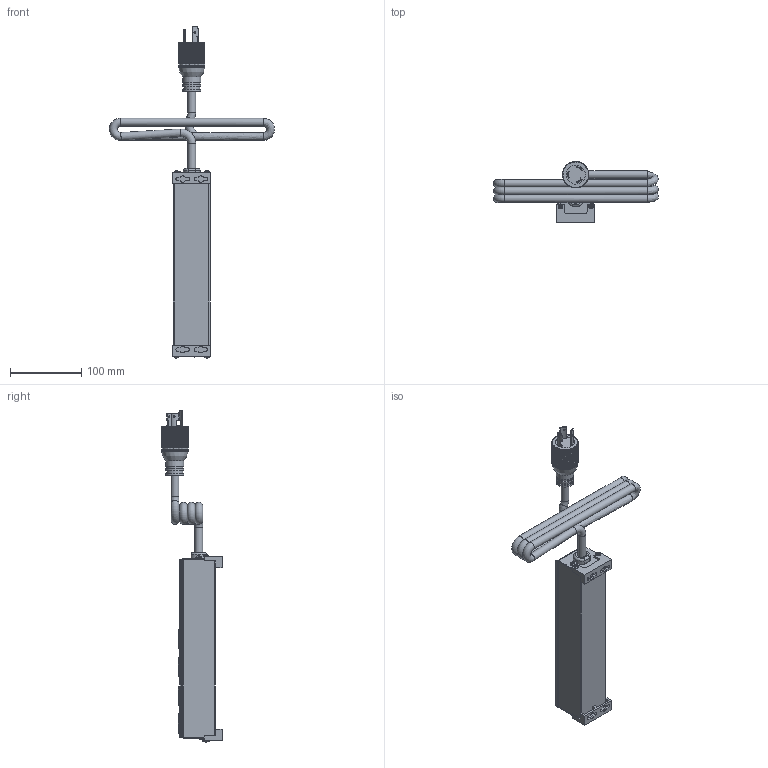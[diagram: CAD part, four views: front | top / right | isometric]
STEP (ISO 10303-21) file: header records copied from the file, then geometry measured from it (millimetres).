
FILE_DESCRIPTION((''),'2;1');
FILE_NAME('E:\Dutton\Manufacturing\drawings\Updated 2009\POWER BARS\1589 series\STEP''s\1589T4C1.stp','2009-12-29T08:56:12',('tfoster'),(''),'Autodesk Inventor 2010','Autodesk Inventor 2010','');
FILE_SCHEMA(('AUTOMOTIVE_DESIGN { 1 0 10303 214 1 1 1 1 }'));
Products named in the file (11): 1589T4C1; 4 Outlet extrusion; 4 outlet; #6x0.5 type A; Reset Switch; round head 1-way 8-32 x 0.5 screw; toothwasher; 20 amp Twist Cored; 20 Amp Receptacle; Mounting Bracket; Pilot light
Assembly tree (17 placements, depth 2):
  1589T4C1
    4 Outlet extrusion
    4 outlet
    #6x0.5 type A  x4
    Reset Switch
    round head 1-way 8-32 x 0.5 screw
    toothwasher
    20 amp Twist Cored
    20 Amp Receptacle  x4
    Mounting Bracket  x2
    Pilot light
Bounding box: 232.04 x 84.81 x 466.42 mm (x, y, z)
Volume: 367014.6 mm3; surface area: 216242.3 mm2
Topology: 17 solids, 17 shells, 1140 faces, 3398 edges, 2305 vertices
Faces by surface type: plane 746, cylinder 229, bspline 93, cone 35, sphere 21, torus 16
Full cylindrical faces by diameter (mm): 1.803 x3, 1.905 x2, 2.794 x3, 4.3 x1, 4.648 x5, 7.849 x1, 11 x4, 12.5 x1, 22.606 x2, 25.146 x3, 26.67 x1
Entity records: 29653 total; most frequent: CARTESIAN_POINT 8851, ORIENTED_EDGE 4478, DIRECTION 3963, EDGE_CURVE 2239, VERTEX_POINT 1530, VECTOR 1415, LINE 1415, AXIS2_PLACEMENT_3D 1274
